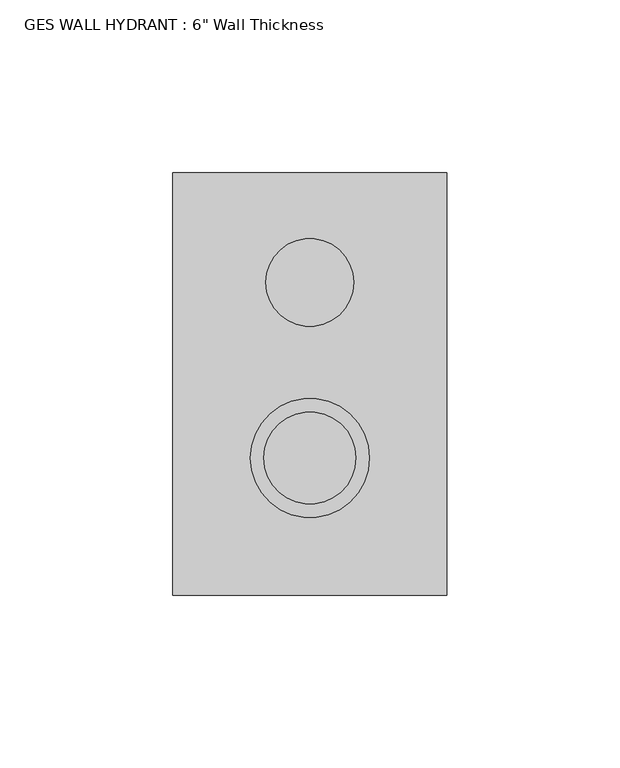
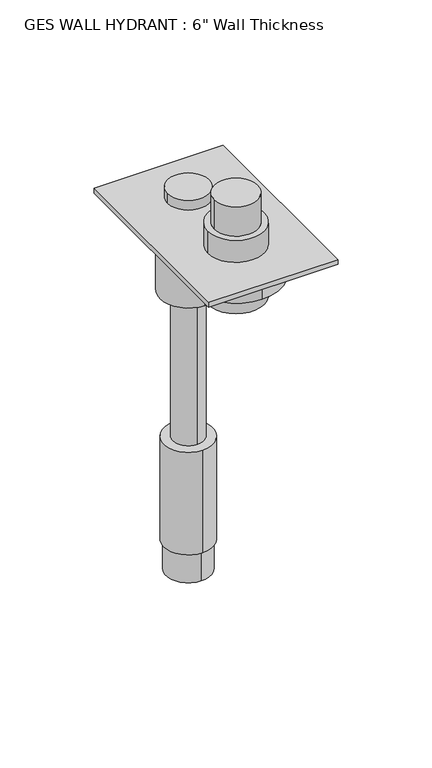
"""IFC4 building model written with IfcOpenShell, lengths in millimetres: flow terminal geometry."""

import ifcopenshell
import ifcopenshell.guid

model = None  # the IFC model being written
_history = None  # IfcOwnerHistory: only IFC2X3 demands one
_inside = {}  # id of a spatial element -> (the spatial element, [elements in it])
_under = {}  # id of a project, library or spatial element -> (it, [spatial elements below it])
_declared = {}  # id of a project -> (the project, [libraries it declares])
_typed = {}  # id of a type object -> (the type object, [elements of that type])
_made_of = {}  # id of a material, layer set ... -> (it, [elements and type objects made of it])


def new_model(schema):
    """Start an empty IFC model of exactly this schema.

    Asked for "IFC4X3", IfcOpenShell would pick the latest addendum, in which some entities
    have other attributes; the version numbers below select the first issue.
    IFC2X3 requires an IfcOwnerHistory on every rooted entity: one is made here for all.
    """
    global model, _history
    if schema == "IFC4X3":
        model = ifcopenshell.file(schema_version=(4, 3, 0, 0))
    else:
        model = ifcopenshell.file(schema=schema)
    _inside.clear()
    _under.clear()
    _declared.clear()
    _typed.clear()
    _made_of.clear()
    _history = None
    if model.schema == "IFC2X3":
        org = make("IfcOrganization", Name="unknown")
        user = make(
            "IfcPersonAndOrganization",
            ThePerson=make("IfcPerson", FamilyName="unknown"),
            TheOrganization=org,
        )
        app = make(
            "IfcApplication",
            ApplicationDeveloper=org,
            Version="unknown",
            ApplicationFullName="unknown",
            ApplicationIdentifier="unknown",
        )
        _history = make(
            "IfcOwnerHistory",
            OwningUser=user,
            OwningApplication=app,
            ChangeAction="ADDED",
            CreationDate=0,
        )
    return model


def make(cls, **values):
    """One entity of the class cls with the attributes given. An attribute that is None is left unset."""
    return model.create_entity(
        cls, **{name: value for name, value in values.items() if value is not None}
    )


def rooted(cls, **values):
    """An entity with a GlobalId (a new one), such as an element, a storey or a relation."""
    return make(cls, GlobalId=ifcopenshell.guid.new(), OwnerHistory=_history, **values)


def si_unit(unit_type, name, prefix=None):
    """IfcSIUnit, for example si_unit("LENGTHUNIT", "METRE", prefix="MILLI")."""
    return make("IfcSIUnit", UnitType=unit_type, Prefix=prefix, Name=name)


def assignment(units):
    """IfcUnitAssignment: the units of a project."""
    return None if units is None else make("IfcUnitAssignment", Units=units)


def point(xyz):
    """IfcCartesianPoint."""
    return None if xyz is None else make("IfcCartesianPoint", Coordinates=xyz)


def direction(xyz):
    """IfcDirection."""
    return None if xyz is None else make("IfcDirection", DirectionRatios=xyz)


def frame(location, z_axis=None, x_axis=None):
    """IfcAxis2Placement3D, a coordinate frame: its origin and axes. An axis left out is left unset."""
    return make(
        "IfcAxis2Placement3D",
        Location=point(location),
        Axis=direction(z_axis),
        RefDirection=direction(x_axis),
    )


def frame_2d(location, x_axis=None):
    """IfcAxis2Placement2D, a coordinate frame in the plane: its origin and x axis."""
    return make(
        "IfcAxis2Placement2D", Location=point(location), RefDirection=direction(x_axis)
    )


def origin():
    """The frame at (0, 0, 0) with its axes left unset."""
    return frame((0.0, 0.0, 0.0))


def origin_with_axes():
    """The frame at (0, 0, 0) with the z axis (0, 0, 1) and the x axis (1, 0, 0) written out."""
    return frame((0.0, 0.0, 0.0), z_axis=(0.0, 0.0, 1.0), x_axis=(1.0, 0.0, 0.0))


def place(relative_to, where):
    """IfcLocalPlacement: puts the frame where relative to a parent placement (None: the world)."""
    return make(
        "IfcLocalPlacement", PlacementRelTo=relative_to, RelativePlacement=where
    )


def context(
    kind, dimensions, precision=None, world=None, true_north=None, identifier=None
):
    """IfcGeometricRepresentationContext, for example the 3D "Model" context."""
    return make(
        "IfcGeometricRepresentationContext",
        ContextIdentifier=identifier,
        ContextType=kind,
        CoordinateSpaceDimension=dimensions,
        Precision=precision,
        WorldCoordinateSystem=world,
        TrueNorth=true_north,
    )


def project(units=None, contexts=None):
    """IfcProject with its units and contexts."""
    return rooted(
        "IfcProject",
        Name="project",
        RepresentationContexts=contexts,
        UnitsInContext=assignment(units),
    )


def spatial(cls, under=None, at=None, **own):
    """A site, building, storey or space (cls), placed at a placement, below another one or the project."""
    s = rooted(cls, ObjectPlacement=at, **own)
    if under is not None:
        _under.setdefault(under.id(), (under, []))[1].append(s)
    return s


def polyline(points):
    """IfcPolyline through the points."""
    return make("IfcPolyline", Points=[point(p) for p in points])


def circle_curve(where, radius):
    """IfcCircle in the frame where."""
    return make("IfcCircle", Position=where, Radius=radius)


def trimmed(basis, trim1, trim2, sense, master):
    """IfcTrimmedCurve: the piece of a basis curve between two trims."""
    return make(
        "IfcTrimmedCurve",
        BasisCurve=basis,
        Trim1=trim1,
        Trim2=trim2,
        SenseAgreement=sense,
        MasterRepresentation=master,
    )


def segment(curve, same_sense, transition):
    """IfcCompositeCurveSegment."""
    return make(
        "IfcCompositeCurveSegment",
        Transition=transition,
        SameSense=same_sense,
        ParentCurve=curve,
    )


def composite_curve(segments, self_intersect=None):
    """IfcCompositeCurve: segments joined end to end."""
    return make("IfcCompositeCurve", Segments=segments, SelfIntersect=self_intersect)


def outline(outer, holes=None, kind="AREA"):
    """IfcArbitraryClosedProfileDef: a profile drawn as a closed curve; with holes, ...WithVoids."""
    if holes is None:
        return make("IfcArbitraryClosedProfileDef", ProfileType=kind, OuterCurve=outer)
    return make(
        "IfcArbitraryProfileDefWithVoids",
        ProfileType=kind,
        OuterCurve=outer,
        InnerCurves=holes,
    )


def extrude(swept, where, along, depth):
    """IfcExtrudedAreaSolid: the profile swept, set in the frame where, extruded along a direction by depth."""
    return make(
        "IfcExtrudedAreaSolid",
        SweptArea=swept,
        Position=where,
        ExtrudedDirection=direction(along),
        Depth=depth,
    )


def shape(context_of_items, identifier, shape_type, items):
    """IfcShapeRepresentation: the items that make up one representation, for example the "Body"."""
    return make(
        "IfcShapeRepresentation",
        ContextOfItems=context_of_items,
        RepresentationIdentifier=identifier,
        RepresentationType=shape_type,
        Items=items,
    )


def source(mapping_origin, context_of_items, identifier, shape_type, items):
    """IfcRepresentationMap: a shape defined once, which mapped items show again and again."""
    return make(
        "IfcRepresentationMap",
        MappingOrigin=mapping_origin,
        MappedRepresentation=shape(context_of_items, identifier, shape_type, items),
    )


def transform(
    local_origin,
    x_axis=None,
    y_axis=None,
    z_axis=None,
    scale=None,
    scale2=None,
    scale3=None,
    uniform=True,
):
    """IfcCartesianTransformationOperator3D, or its non-uniform kind. x_axis, y_axis, z_axis: its Axis1, 2, 3."""
    if uniform:
        return make(
            "IfcCartesianTransformationOperator3D",
            Axis1=direction(x_axis),
            Axis2=direction(y_axis),
            LocalOrigin=point(local_origin),
            Scale=scale,
            Axis3=direction(z_axis),
        )
    return make(
        "IfcCartesianTransformationOperator3DnonUniform",
        Axis1=direction(x_axis),
        Axis2=direction(y_axis),
        LocalOrigin=point(local_origin),
        Scale=scale,
        Axis3=direction(z_axis),
        Scale2=scale2,
        Scale3=scale3,
    )


def mapped(mapping_source, mapping_target):
    """IfcMappedItem: shows the shape of a source again, moved by a transform."""
    return make(
        "IfcMappedItem", MappingSource=mapping_source, MappingTarget=mapping_target
    )


def made_of(thing, what):
    """Note that an element or type object is made of a material, layer set ...; save() writes the relation."""
    if what is not None:
        _made_of.setdefault(what.id(), (what, []))[1].append(thing)
    return thing


def element(
    cls,
    number,
    at=None,
    inside=None,
    cuts=None,
    type_object=None,
    material=None,
    context=None,
    identifier="Body",
    shape_type=None,
    held_by="IfcProductDefinitionShape",
    body=None,
    shapes=None,
    **own,
):
    """One element of the class cls, such as IfcWall. Its Tag is "e" and its number.

    at: its placement. inside: the storey or other place that contains it. cuts: it is an
    opening in that element (IfcRelVoidsElement). A single representation is given by context,
    identifier, shape_type and body (its items); several are given by shapes. held_by: the class
    of the entity that holds the representations. save() writes the other relations.
    """
    e = rooted(cls, Tag="e%d" % number, ObjectPlacement=at, **own)
    if body is not None:
        shapes = [shape(context, identifier, shape_type, body)]
    if shapes is not None:
        e.Representation = make(held_by, Representations=shapes)
    if inside is not None:
        _inside.setdefault(inside.id(), (inside, []))[1].append(e)
    if cuts is not None:
        rooted(
            "IfcRelVoidsElement", RelatingBuildingElement=cuts, RelatedOpeningElement=e
        )
    if type_object is not None:
        _typed.setdefault(type_object.id(), (type_object, []))[1].append(e)
    return made_of(e, material)


def aggregate(whole, parts):
    """IfcRelAggregates: a whole, such as a stair, and the parts it consists of."""
    return rooted("IfcRelAggregates", RelatingObject=whole, RelatedObjects=parts)


def save(model, path):
    """Write the relations noted so far, then the file.

    IfcRelAggregates (storeys below a building ...), IfcRelContainedInSpatialStructure (elements
    in a storey), IfcRelDefinesByType, IfcRelAssociatesMaterial and IfcRelDeclares: one each for
    every whole, place, type object, material and project.
    """
    for whole, parts in _under.values():
        aggregate(whole, parts)
    for where, things in _inside.values():
        rooted(
            "IfcRelContainedInSpatialStructure",
            RelatedElements=things,
            RelatingStructure=where,
        )
    for kind, things in _typed.values():
        rooted("IfcRelDefinesByType", RelatedObjects=things, RelatingType=kind)
    for what, things in _made_of.values():
        rooted("IfcRelAssociatesMaterial", RelatedObjects=things, RelatingMaterial=what)
    for by, libraries in _declared.values():
        rooted("IfcRelDeclares", RelatingContext=by, RelatedDefinitions=libraries)
    model.write(path)


def plane_surface(at):
    """IfcPlane: the flat surface through the origin of the frame at, square to its z axis."""
    return make("IfcPlane", Position=at)


def cylinder_surface(at, radius):
    """IfcCylindricalSurface: all points at the distance radius from the z axis of the frame at."""
    return make("IfcCylindricalSurface", Position=at, Radius=radius)


def advanced_brep(points, edges, surfaces, faces):
    """IfcAdvancedBrep: a solid bounded by faces that lie on surfaces and meet in shared edges.

    An edge is (start, end): straight between two places in points (the first is 0);
    or (start, end, curve); or (start, end, curve, False) where it runs against its curve.
    A face is (place in surfaces, loops), or (place, loops, False) where it looks against
    its surface's normal. A loop lists edges by number (the first is 1), with a minus sign
    where the edge is run from its end to its start. The first loop is the outer one.
    """
    corners = [point(p) for p in points]
    vertices = [make("IfcVertexPoint", VertexGeometry=c) for c in corners]
    made = []
    for start, end, *more in edges:
        made.append(
            make(
                "IfcEdgeCurve",
                EdgeStart=vertices[start],
                EdgeEnd=vertices[end],
                EdgeGeometry=more[0] if more else make("IfcPolyline", Points=[corners[start], corners[end]]),
                SameSense=more[1] if len(more) > 1 else True,
            )
        )
    hull = []
    for where, loops, *sense in faces:
        bounds = []
        for j, loop in enumerate(loops):
            ring = [make("IfcOrientedEdge", EdgeElement=made[abs(k) - 1], Orientation=k > 0) for k in loop]
            bounds.append(
                make(
                    "IfcFaceOuterBound" if j == 0 else "IfcFaceBound",
                    Bound=make("IfcEdgeLoop", EdgeList=ring),
                    Orientation=True,
                )
            )
        hull.append(make("IfcAdvancedFace", Bounds=bounds, FaceSurface=surfaces[where], SameSense=sense[0] if sense else True))
    return make("IfcAdvancedBrep", Outer=make("IfcClosedShell", CfsFaces=hull))


def flow_terminal_99821c54(model_context):
    return source(origin(), model_context, "Body", "SolidModel", [
        advanced_brep(
        [(0.0, 43.16095, -238.125), (0.0, 15.57655, -238.125), (0.0, 15.57655, -219.075), (0.0, 43.16095, -219.075), (0.0, 44.45635, -219.075), (0.0, 14.28115, -219.075), (0.0, 44.45635, -152.4), (0.0, 14.28115, -152.4)],
        [
            (0, 1, circle_curve(frame((0.0, 29.36875, -238.125), z_axis=(0.0, 0.0, -1.0), x_axis=(0.0, -1.0, 0.0)), 13.7922)),
            (1, 0, circle_curve(frame((0.0, 29.36875, -238.125), z_axis=(0.0, 0.0, -1.0), x_axis=(0.0, -1.0, 0.0)), 13.7922)),
            (1, 2),
            (2, 3, circle_curve(frame((0.0, 29.36875, -219.075), z_axis=(0.0, 0.0, -1.0), x_axis=(0.0, -1.0, 0.0)), 13.7922)),
            (3, 0),
            (3, 2, circle_curve(frame((0.0, 29.36875, -219.075), z_axis=(0.0, 0.0, -1.0), x_axis=(0.0, -1.0, 0.0)), 13.7922)),
            (4, 5, circle_curve(frame((0.0, 29.36875, -219.075), z_axis=(0.0, 0.0, -1.0), x_axis=(0.0, -1.0, 0.0)), 15.0876)),
            (5, 4, circle_curve(frame((0.0, 29.36875, -219.075), z_axis=(0.0, 0.0, -1.0), x_axis=(0.0, -1.0, 0.0)), 15.0876)),
            (6, 7, circle_curve(frame((0.0, 29.36875, -152.4), z_axis=(0.0, 0.0, 1.0), x_axis=(0.0, -1.0, 0.0)), 15.0876)),
            (7, 6, circle_curve(frame((0.0, 29.36875, -152.4), z_axis=(0.0, 0.0, 1.0), x_axis=(0.0, -1.0, 0.0)), 15.0876)),
            (5, 7),
            (6, 4),
        ],
        [
            plane_surface(frame((0.0, 15.57655, -238.125), z_axis=(0.0, 0.0, -1.0), x_axis=(-1.0, 0.0, 0.0))),
            cylinder_surface(frame((0.0, 29.36875, -238.125), z_axis=(0.0, 0.0, 1.0), x_axis=(0.0, -1.0, 0.0)), 13.7922),
            plane_surface(frame((0.0, 14.28115, -219.075), z_axis=(0.0, 0.0, -1.0), x_axis=(-1.0, 0.0, 0.0))),
            plane_surface(frame((0.0, 14.28115, -152.4), z_axis=(0.0, 0.0, 1.0), x_axis=(1.0, 0.0, 0.0))),
            cylinder_surface(frame((0.0, 29.36875, -219.075), z_axis=(0.0, 0.0, 1.0), x_axis=(0.0, -1.0, 0.0)), 15.0876),
        ],
        [
            (0, [[1, 2]]),
            (1, [[-2, 3, 4, 5]]),
            (1, [[-1, -5, 6, -3]]),
            (2, [[7, 8], [-4, -6]]),
            (3, [[9, 10]]),
            (4, [[-8, 11, -9, 12]]),
            (4, [[-7, -12, -10, -11]]),
        ],
    ),
        advanced_brep(
        [(-13.335, -21.43125, 36.5125), (13.335, -21.43125, 36.5125), (-13.335, -21.43125, 17.4752), (13.335, -21.43125, 17.4752), (-17.2212, -21.43125, 17.4752), (17.2212, -21.43125, 17.4752), (-17.2212, -21.43125, 3.175), (17.2212, -21.43125, 3.175)],
        [
            (0, 1, circle_curve(frame((0.0, -21.43125, 36.5125), z_axis=(0.0, 0.0, 1.0), x_axis=(1.0, 0.0, 0.0)), 13.335)),
            (1, 0, circle_curve(frame((0.0, -21.43125, 36.5125), z_axis=(0.0, 0.0, 1.0), x_axis=(1.0, 0.0, 0.0)), 13.335)),
            (0, 2),
            (2, 3, circle_curve(frame((0.0, -21.43125, 17.4752), z_axis=(0.0, 0.0, 1.0), x_axis=(1.0, 0.0, 0.0)), 13.335)),
            (3, 1),
            (3, 2, circle_curve(frame((0.0, -21.43125, 17.4752), z_axis=(0.0, 0.0, 1.0), x_axis=(1.0, 0.0, 0.0)), 13.335)),
            (4, 5, circle_curve(frame((0.0, -21.43125, 17.4752), z_axis=(0.0, 0.0, 1.0), x_axis=(1.0, 0.0, 0.0)), 17.2212)),
            (5, 4, circle_curve(frame((0.0, -21.43125, 17.4752), z_axis=(0.0, 0.0, 1.0), x_axis=(1.0, 0.0, 0.0)), 17.2212)),
            (6, 7, circle_curve(frame((0.0, -21.43125, 3.175), z_axis=(0.0, 0.0, -1.0), x_axis=(1.0, 0.0, 0.0)), 17.2212)),
            (7, 6, circle_curve(frame((0.0, -21.43125, 3.175), z_axis=(0.0, 0.0, -1.0), x_axis=(1.0, 0.0, 0.0)), 17.2212)),
            (4, 6),
            (7, 5),
        ],
        [
            plane_surface(frame((13.335, -21.43125, 36.5125), z_axis=(0.0, 0.0, 1.0), x_axis=(0.0, 1.0, 0.0))),
            cylinder_surface(frame((0.0, -21.43125, 17.4752), z_axis=(0.0, 0.0, 1.0), x_axis=(1.0, 0.0, 0.0)), 13.335),
            plane_surface(frame((17.2212, -21.43125, 17.4752), z_axis=(0.0, 0.0, 1.0), x_axis=(0.0, 1.0, 0.0))),
            plane_surface(frame((17.2212, -21.43125, 3.175), z_axis=(0.0, 0.0, -1.0), x_axis=(0.0, -1.0, 0.0))),
            cylinder_surface(frame((0.0, -21.43125, 3.175), z_axis=(0.0, 0.0, 1.0), x_axis=(1.0, 0.0, 0.0)), 17.2212),
        ],
        [
            (0, [[1, 2]]),
            (1, [[-1, 3, 4, 5]]),
            (1, [[-2, -5, 6, -3]]),
            (2, [[7, 8], [-4, -6]]),
            (3, [[9, 10]]),
            (4, [[-7, 11, -10, 12]]),
            (4, [[-8, -12, -9, -11]]),
        ],
    ),
        extrude(outline(composite_curve([segment(trimmed(circle_curve(frame_2d((0.0, 29.36875)), 9.525), [point((0.0, 38.89375))], [point((0.0, 19.84375))], False, "CARTESIAN"), True, "CONTINUOUS"), segment(trimmed(circle_curve(frame_2d((0.0, 29.36875)), 9.525), [point((0.0, 19.84375))], [point((0.0, 38.89375))], False, "CARTESIAN"), True, "CONTINUOUS")], self_intersect=False)), frame((0.0, 0.0, -152.4), z_axis=(0.0, 0.0, 1.0), x_axis=(1.0, 0.0, 0.0)), (0.0, 0.0, 1.0), 95.25),
        advanced_brep(
        [(0.0, 46.76775, -57.15), (0.0, 11.96975, -57.15), (0.0, 11.96975, -29.972), (-17.399, 29.36875, -29.972), (0.0, 46.76775, -29.972), (17.399, 29.36875, -29.972), (17.399, -21.43125, -29.972), (-17.399, -21.43125, -29.972), (28.575, 49.94275, 0.0), (-28.575, 49.94275, 0.0), (-28.575, -50.13325, 0.0), (28.575, -50.13325, 0.0), (17.399, 29.36875, -6.35), (17.399, 0.1045201, -6.35), (17.399, 0.1045201, -16.002), (17.399, -21.43125, -16.002), (-17.399, 29.36875, -6.35), (-17.399, -21.43125, -16.002), (-17.399, 0.1045201, -16.002), (-17.399, 0.1045201, -6.35), (0.0, -49.11725, -16.002), (0.0, -49.11725, -6.35), (28.575, 49.94275, -6.35), (28.575, -50.13325, -6.35), (-28.575, -50.13325, -6.35), (-28.575, 49.94275, -6.35)],
        [
            (0, 1, circle_curve(frame((0.0, 29.36875, -57.15), z_axis=(0.0, 0.0, -1.0), x_axis=(0.0, -1.0, 0.0)), 17.399)),
            (1, 0, circle_curve(frame((0.0, 29.36875, -57.15), z_axis=(0.0, 0.0, -1.0), x_axis=(0.0, -1.0, 0.0)), 17.399)),
            (1, 2),
            (2, 3, circle_curve(frame((0.0, 29.36875, -29.972), z_axis=(0.0, 0.0, -1.0), x_axis=(0.0, -1.0, 0.0)), 17.399)),
            (3, 4, circle_curve(frame((0.0, 29.36875, -29.972), z_axis=(0.0, 0.0, -1.0), x_axis=(0.0, -1.0, 0.0)), 17.399)),
            (4, 0),
            (4, 5, circle_curve(frame((0.0, 29.36875, -29.972), z_axis=(0.0, 0.0, -1.0), x_axis=(0.0, -1.0, 0.0)), 17.399)),
            (5, 2, circle_curve(frame((0.0, 29.36875, -29.972), z_axis=(0.0, 0.0, -1.0), x_axis=(0.0, -1.0, 0.0)), 17.399)),
            (6, 7, circle_curve(frame((0.0, -21.43125, -29.972), z_axis=(0.0, 0.0, -1.0), x_axis=(0.0, -1.0, 0.0)), 17.399)),
            (7, 3),
            (5, 6),
            (8, 9),
            (9, 10),
            (10, 11),
            (11, 8),
            (5, 12),
            (12, 13),
            (13, 14),
            (14, 15),
            (15, 6),
            (3, 16),
            (16, 12, circle_curve(frame((0.0, 29.36875, -6.35), z_axis=(0.0, 0.0, -1.0), x_axis=(0.0, -1.0, 0.0)), 17.399)),
            (7, 17),
            (17, 18),
            (18, 19),
            (19, 16),
            (15, 17, circle_curve(frame((0.0, -21.43125, -16.002), z_axis=(0.0, 0.0, -1.0), x_axis=(0.0, -1.0, 0.0)), 17.399)),
            (14, 20, circle_curve(frame((0.0, -21.43125, -16.002), z_axis=(0.0, 0.0, -1.0), x_axis=(0.0, -1.0, 0.0)), 27.686)),
            (20, 18, circle_curve(frame((0.0, -21.43125, -16.002), z_axis=(0.0, 0.0, -1.0), x_axis=(0.0, -1.0, 0.0)), 27.686)),
            (20, 21),
            (21, 19, circle_curve(frame((0.0, -21.43125, -6.35), z_axis=(0.0, 0.0, -1.0), x_axis=(0.0, -1.0, 0.0)), 27.686)),
            (13, 21, circle_curve(frame((0.0, -21.43125, -6.35), z_axis=(0.0, 0.0, -1.0), x_axis=(0.0, -1.0, 0.0)), 27.686)),
            (22, 23),
            (23, 24),
            (24, 25),
            (25, 22),
            (25, 9),
            (8, 22),
            (24, 10),
            (23, 11),
        ],
        [
            plane_surface(frame((0.0, 11.96975, -57.15), z_axis=(0.0, 0.0, -1.0), x_axis=(-1.0, 0.0, 0.0))),
            cylinder_surface(frame((0.0, 29.36875, -57.15), z_axis=(0.0, 0.0, 1.0), x_axis=(0.0, -1.0, 0.0)), 17.399),
            plane_surface(frame((17.399, 29.36875, -29.972), z_axis=(0.0, 0.0, -1.0), x_axis=(0.0, -1.0, 0.0))),
            plane_surface(frame((17.399, 29.36875, 0.0), z_axis=(0.0, 0.0, 1.0), x_axis=(0.0, 1.0, 0.0))),
            plane_surface(frame((17.399, -21.43125, 0.0), z_axis=(1.0, 0.0, 0.0), x_axis=(0.0, 0.0, -1.0))),
            cylinder_surface(frame((0.0, 29.36875, -29.972), z_axis=(0.0, 0.0, 1.0), x_axis=(0.0, -1.0, 0.0)), 17.399),
            plane_surface(frame((-17.399, 29.36875, 0.0), z_axis=(-1.0, 0.0, 0.0), x_axis=(0.0, 0.0, -1.0))),
            cylinder_surface(frame((0.0, -21.43125, -29.972), z_axis=(0.0, 0.0, 1.0), x_axis=(0.0, -1.0, 0.0)), 17.399),
            plane_surface(frame((0.0, -49.11725, -16.002), z_axis=(0.0, 0.0, -1.0), x_axis=(-1.0, 0.0, 0.0))),
            cylinder_surface(frame((0.0, -21.43125, -16.002), z_axis=(0.0, 0.0, 1.0), x_axis=(0.0, -1.0, 0.0)), 27.686),
            plane_surface(frame((-25.6014578, 49.94275, -6.35), z_axis=(0.0, 0.0, -1.0), x_axis=(1.0, 0.0, 0.0))),
            plane_surface(frame((28.575, 49.94275, 0.0), z_axis=(0.0, 1.0, 0.0), x_axis=(0.0, 0.0, -1.0))),
            plane_surface(frame((-28.575, 49.94275, 0.0), z_axis=(-1.0, 0.0, 0.0), x_axis=(0.0, 0.0, -1.0))),
            plane_surface(frame((-28.575, -50.13325, 0.0), z_axis=(0.0, -1.0, 0.0), x_axis=(0.0, 0.0, -1.0))),
            plane_surface(frame((28.575, -50.13325, 0.0), z_axis=(1.0, 0.0, 0.0), x_axis=(0.0, 0.0, -1.0))),
        ],
        [
            (0, [[1, 2]]),
            (1, [[-2, 3, 4, 5, 6]]),
            (1, [[-1, -6, 7, 8, -3]]),
            (2, [[9, 10, -4, -8, 11]]),
            (3, [[12, 13, 14, 15]]),
            (4, [[-11, 16, 17, 18, 19, 20]]),
            (5, [[-5, 21, 22, -16, -7]]),
            (6, [[-10, 23, 24, 25, 26, -21]]),
            (7, [[-9, -20, 27, -23]]),
            (8, [[28, 29, -24, -27, -19]]),
            (9, [[-29, 30, 31, -25]]),
            (9, [[-28, -18, 32, -30]]),
            (10, [[33, 34, 35, 36], [-17, -22, -26, -31, -32]]),
            (11, [[-36, 37, -12, 38]]),
            (12, [[-35, 39, -13, -37]]),
            (13, [[-34, 40, -14, -39]]),
            (14, [[-33, -38, -15, -40]]),
        ],
    ),
        extrude(outline(composite_curve([segment(trimmed(circle_curve(frame_2d((0.0, 29.36875)), 12.7), [point((-12.7, 29.36875))], [point((12.7, 29.36875))], False, "CARTESIAN"), True, "CONTINUOUS"), segment(trimmed(circle_curve(frame_2d((0.0, 29.36875)), 12.7), [point((12.7, 29.36875))], [point((-12.7, 29.36875))], False, "CARTESIAN"), True, "CONTINUOUS")], self_intersect=False)), frame((0.0, 0.0, 3.175), z_axis=(0.0, 0.0, 1.0), x_axis=(1.0, 0.0, 0.0)), (0.0, 0.0, 1.0), 6.35),
        extrude(outline(polyline([(39.6875, 61.11875), (39.6875, -61.11875), (-39.6875, -61.11875), (-39.6875, 61.11875), (39.6875, 61.11875)])), origin_with_axes(), (0.0, 0.0, 1.0), 3.175),
    ])


if __name__ == "__main__":
    model = new_model("IFC4")
    model_context = context("Model", 3, world=origin())
    ifc_project = project(units=[si_unit("LENGTHUNIT", "METRE", prefix="MILLI")], contexts=[model_context])
    site = spatial("IfcSite", under=ifc_project)
    building = spatial("IfcBuilding", under=site)
    placement = place(None, origin())
    flow_terminal_shape = flow_terminal_99821c54(model_context)
    element("IfcFlowTerminal", 1, ObjectType="GES WALL HYDRANT : 6\" Wall Thickness", at=placement, inside=building, context=model_context, shape_type="MappedRepresentation", body=[
        mapped(flow_terminal_shape, transform((0.0, 0.0, 0.0), x_axis=(1.0, 0.0, 0.0), y_axis=(0.0, 1.0, 0.0), z_axis=(0.0, 0.0, 1.0))),
    ])
    save(model, "model.ifc")
